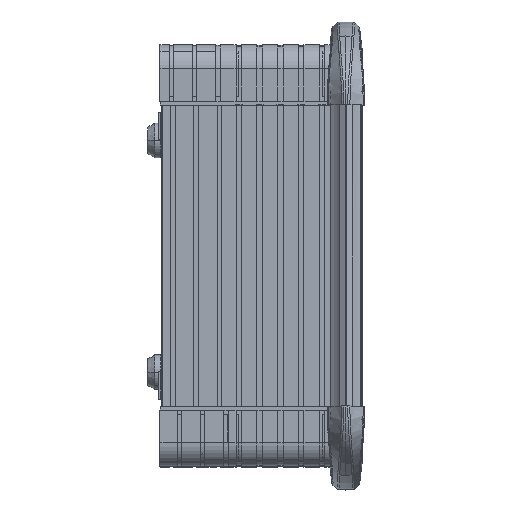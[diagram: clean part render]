
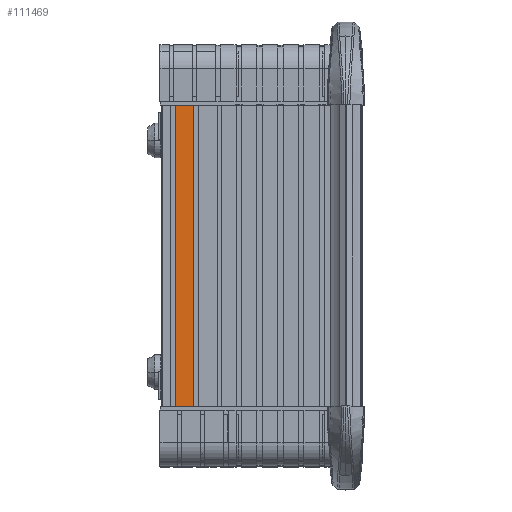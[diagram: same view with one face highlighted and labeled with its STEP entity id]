
A CAD part, top view. The second image highlights one B-rep face of the part: STEP entity #111469.
In plain terms, the highlighted planar face has unit normal (0, 0, 1).
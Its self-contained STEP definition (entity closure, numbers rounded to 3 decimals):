
#292 = EDGE_CURVE ( 'NONE', #97901, #332335, #184835, .T. ) ;
#21565 = CARTESIAN_POINT ( 'NONE',  ( -63.253, 27.475, 492.404 ) ) ;
#29283 = CARTESIAN_POINT ( 'NONE',  ( -76.923, 27.475, 492.404 ) ) ;
#39891 = CARTESIAN_POINT ( 'NONE',  ( -76.923, 244.645, 492.404 ) ) ;
#43631 = EDGE_CURVE ( 'NONE', #97901, #269547, #206602, .T. ) ;
#47274 = CARTESIAN_POINT ( 'NONE',  ( -76.923, 244.645, 492.404 ) ) ;
#54221 = DIRECTION ( 'NONE',  ( 0., 1., 0. ) ) ;
#68229 = VECTOR ( 'NONE', #54221, 1000. ) ;
#79992 = EDGE_LOOP ( 'NONE', ( #156396, #264714, #229873, #236974 ) ) ;
#88410 = LINE ( 'NONE', #210006, #68229 ) ;
#97901 = VERTEX_POINT ( 'NONE', #39891 ) ;
#109773 = FACE_OUTER_BOUND ( 'NONE', #79992, .T. ) ;
#111469 = ADVANCED_FACE ( 'NONE', ( #109773 ), #188079, .T. ) ;
#116334 = DIRECTION ( 'NONE',  ( 0., -1., 0. ) ) ;
#125608 = VERTEX_POINT ( 'NONE', #331527 ) ;
#129741 = AXIS2_PLACEMENT_3D ( 'NONE', #248202, #220960, #116334 ) ;
#156396 = ORIENTED_EDGE ( 'NONE', *, *, #292, .T. ) ;
#183534 = EDGE_CURVE ( 'NONE', #125608, #269547, #88410, .T. ) ;
#184835 = LINE ( 'NONE', #47274, #221453 ) ;
#185365 = CARTESIAN_POINT ( 'NONE',  ( -6.503, 244.645, 492.404 ) ) ;
#188079 = PLANE ( 'NONE',  #129741 ) ;
#206602 = LINE ( 'NONE', #185365, #255550 ) ;
#210006 = CARTESIAN_POINT ( 'NONE',  ( -63.253, 244.645, 492.404 ) ) ;
#213986 = EDGE_CURVE ( 'NONE', #332335, #125608, #308022, .T. ) ;
#220960 = DIRECTION ( 'NONE',  ( 0., 0., 1. ) ) ;
#221453 = VECTOR ( 'NONE', #280393, 1000. ) ;
#229873 = ORIENTED_EDGE ( 'NONE', *, *, #183534, .T. ) ;
#236974 = ORIENTED_EDGE ( 'NONE', *, *, #43631, .F. ) ;
#248202 = CARTESIAN_POINT ( 'NONE',  ( -63.253, 244.645, 492.404 ) ) ;
#255550 = VECTOR ( 'NONE', #288799, 1000. ) ;
#256995 = CARTESIAN_POINT ( 'NONE',  ( -63.253, 244.645, 492.404 ) ) ;
#264714 = ORIENTED_EDGE ( 'NONE', *, *, #213986, .T. ) ;
#269547 = VERTEX_POINT ( 'NONE', #256995 ) ;
#275476 = VECTOR ( 'NONE', #282025, 1000. ) ;
#280393 = DIRECTION ( 'NONE',  ( 0., -1., 0. ) ) ;
#282025 = DIRECTION ( 'NONE',  ( 1., 0., 0. ) ) ;
#288799 = DIRECTION ( 'NONE',  ( 1., 0., 0. ) ) ;
#308022 = LINE ( 'NONE', #21565, #275476 ) ;
#331527 = CARTESIAN_POINT ( 'NONE',  ( -63.253, 27.475, 492.404 ) ) ;
#332335 = VERTEX_POINT ( 'NONE', #29283 ) ;
